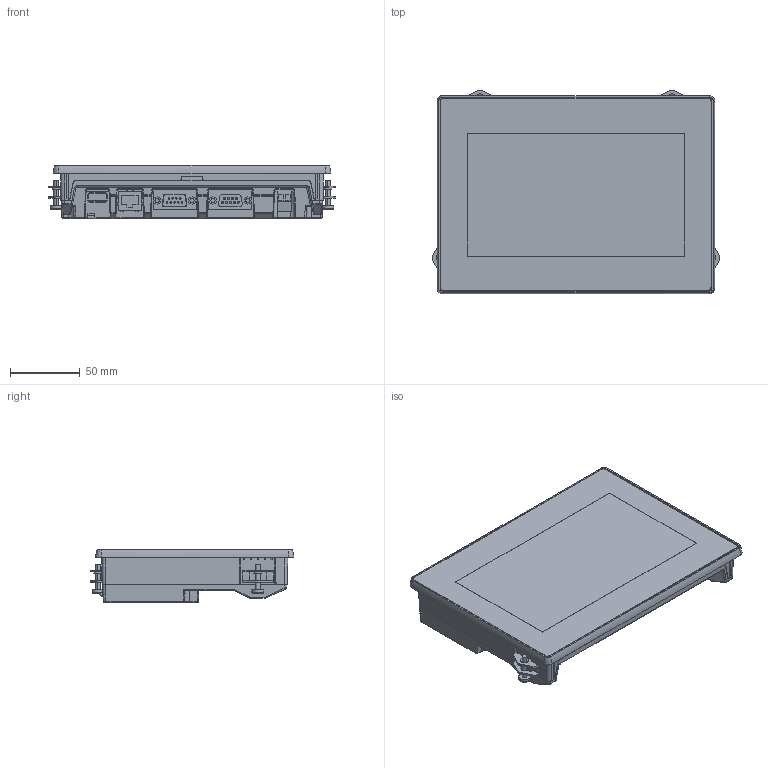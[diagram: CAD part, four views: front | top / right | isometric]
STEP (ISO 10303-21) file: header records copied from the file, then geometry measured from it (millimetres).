
FILE_DESCRIPTION((''),'2;1');
FILE_NAME('TS1070SI_3D-DATA','2018-07-24T',('oda'),('Hakko Electronics Co.,Ltd.'),'PRO/ENGINEER BY PARAMETRIC TECHNOLOGY CORPORATION, 2011490','PRO/ENGINEER BY PARAMETRIC TECHNOLOGY CORPORATION, 2011490','');
FILE_SCHEMA(('CONFIG_CONTROL_DESIGN'));
Length unit declared in the file: millimetre
Products named in the file (1): TS1070SI_3D-DATA
Bounding box: 205.5 x 145.8 x 38 mm (x, y, z)
Volume: 663450.9 mm3; surface area: 95862.8 mm2
Topology: 1 solids, 1 shells, 1361 faces, 3445 edges, 2164 vertices
Faces by surface type: plane 809, cylinder 383, bspline 49, sphere 46, cone 38, torus 36
Entity records: 47457 total; most frequent: CARTESIAN_POINT 14971, ORIENTED_EDGE 6890, DIRECTION 6434, EDGE_CURVE 3445, VECTOR 2458, LINE 2458, VERTEX_POINT 2164, AXIS2_PLACEMENT_3D 1988
